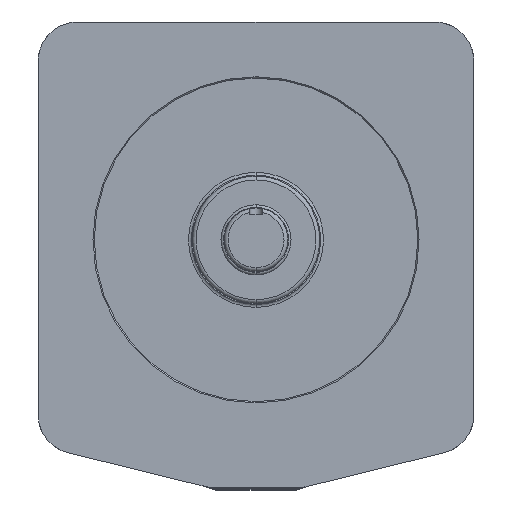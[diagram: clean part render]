
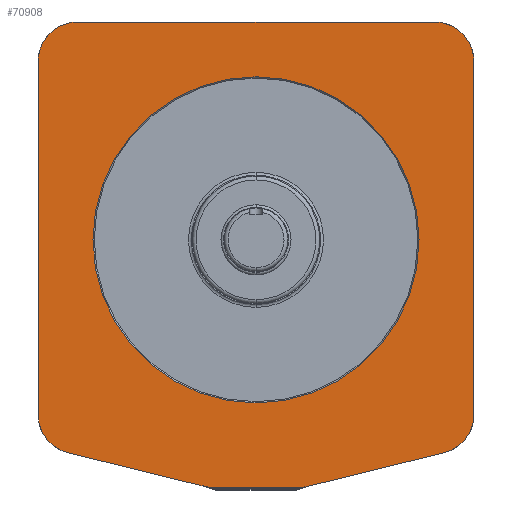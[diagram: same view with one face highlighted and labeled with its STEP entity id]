
A CAD part, top view. The second image highlights one B-rep face of the part: STEP entity #70908.
In plain terms, the highlighted planar face has unit normal (0, 0, 1).
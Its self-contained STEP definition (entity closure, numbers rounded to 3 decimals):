
#293 = DIRECTION ( 'NONE',  ( 0., 0., -1. ) ) ;
#693 = CIRCLE ( 'NONE', #68986, 31. ) ;
#1783 = DIRECTION ( 'NONE',  ( 0., -1., 0. ) ) ;
#4440 = AXIS2_PLACEMENT_3D ( 'NONE', #82474, #119737, #36024 ) ;
#4642 = AXIS2_PLACEMENT_3D ( 'NONE', #64739, #102009, #18274 ) ;
#5472 = CIRCLE ( 'NONE', #73789, 128. ) ;
#7006 = EDGE_CURVE ( 'NONE', #99916, #30553, #88166, .T. ) ;
#7911 = FACE_BOUND ( 'NONE', #106565, .T. ) ;
#8039 = ORIENTED_EDGE ( 'NONE', *, *, #56198, .F. ) ;
#8092 = CIRCLE ( 'NONE', #76444, 31. ) ;
#8765 = EDGE_CURVE ( 'NONE', #44403, #43099, #87612, .T. ) ;
#9954 = ORIENTED_EDGE ( 'NONE', *, *, #117643, .F. ) ;
#10789 = LINE ( 'NONE', #48058, #68534 ) ;
#11600 = LINE ( 'NONE', #48868, #98491 ) ;
#12026 = AXIS2_PLACEMENT_3D ( 'NONE', #83994, #293, #37542 ) ;
#13431 = VERTEX_POINT ( 'NONE', #100534 ) ;
#15928 = CARTESIAN_POINT ( 'NONE',  ( -143.149, -37.658, 387.5 ) ) ;
#17333 = CARTESIAN_POINT ( 'NONE',  ( 191., 171.013, 387.5 ) ) ;
#18274 = DIRECTION ( 'NONE',  ( 1., 0., 0. ) ) ;
#18637 = DIRECTION ( 'NONE',  ( -1., 0., 0. ) ) ;
#19082 = DIRECTION ( 'NONE',  ( -0.239, 0.971, 0. ) ) ;
#19320 = DIRECTION ( 'NONE',  ( -1., 0., 0. ) ) ;
#20018 = DIRECTION ( 'NONE',  ( 0., 1., 0. ) ) ;
#20358 = VERTEX_POINT ( 'NONE', #93032 ) ;
#20582 = AXIS2_PLACEMENT_3D ( 'NONE', #48204, #85498, #1783 ) ;
#20603 = DIRECTION ( 'NONE',  ( 0., -1., 0. ) ) ;
#22554 = EDGE_CURVE ( 'NONE', #71224, #30234, #67074, .T. ) ;
#23676 = EDGE_CURVE ( 'NONE', #30553, #52822, #11600, .T. ) ;
#24684 = CARTESIAN_POINT ( 'NONE',  ( 191., -170.987, 387.5 ) ) ;
#25612 = VECTOR ( 'NONE', #19320, 1000. ) ;
#26260 = ORIENTED_EDGE ( 'NONE', *, *, #108324, .F. ) ;
#26816 = DIRECTION ( 'NONE',  ( 0., 0., 1. ) ) ;
#27062 = CARTESIAN_POINT ( 'NONE',  ( -86.084, 140.013, 387.5 ) ) ;
#27318 = DIRECTION ( 'NONE',  ( -1., 0., 0. ) ) ;
#27595 = ORIENTED_EDGE ( 'NONE', *, *, #34627, .F. ) ;
#28462 = LINE ( 'NONE', #65768, #30632 ) ;
#29907 = ORIENTED_EDGE ( 'NONE', *, *, #30889, .F. ) ;
#30234 = VERTEX_POINT ( 'NONE', #98719 ) ;
#30303 = ORIENTED_EDGE ( 'NONE', *, *, #117234, .F. ) ;
#30553 = VERTEX_POINT ( 'NONE', #30782 ) ;
#30632 = VECTOR ( 'NONE', #103036, 1000. ) ;
#30782 = CARTESIAN_POINT ( 'NONE',  ( -143.149, 37.658, 387.5 ) ) ;
#30889 = EDGE_CURVE ( 'NONE', #88473, #105122, #10789, .T. ) ;
#32295 = CARTESIAN_POINT ( 'NONE',  ( -143.727, -32.887, 387.5 ) ) ;
#32641 = CARTESIAN_POINT ( 'NONE',  ( -143.727, -32.887, 387.5 ) ) ;
#32907 = VERTEX_POINT ( 'NONE', #15928 ) ;
#34627 = EDGE_CURVE ( 'NONE', #90443, #32907, #65546, .T. ) ;
#34921 = AXIS2_PLACEMENT_3D ( 'NONE', #65117, #102391, #18637 ) ;
#35477 = AXIS2_PLACEMENT_3D ( 'NONE', #73801, #111056, #27318 ) ;
#36024 = DIRECTION ( 'NONE',  ( 1., 0., 0. ) ) ;
#36434 = CARTESIAN_POINT ( 'NONE',  ( -86.084, 171.013, 387.5 ) ) ;
#37542 = DIRECTION ( 'NONE',  ( -0.971, -0.239, 0. ) ) ;
#43099 = VERTEX_POINT ( 'NONE', #70497 ) ;
#44123 = ORIENTED_EDGE ( 'NONE', *, *, #23676, .F. ) ;
#44403 = VERTEX_POINT ( 'NONE', #48536 ) ;
#44862 = ORIENTED_EDGE ( 'NONE', *, *, #8765, .F. ) ;
#44896 = VECTOR ( 'NONE', #69613, 1000. ) ;
#45167 = PLANE ( 'NONE',  #4440 ) ;
#48058 = CARTESIAN_POINT ( 'NONE',  ( -86.084, 171.013, 387.5 ) ) ;
#48204 = CARTESIAN_POINT ( 'NONE',  ( -86.09, -139.987, 387.5 ) ) ;
#48536 = CARTESIAN_POINT ( 'NONE',  ( -77., 0., 387.5 ) ) ;
#48868 = CARTESIAN_POINT ( 'NONE',  ( -143.149, 37.658, 387.5 ) ) ;
#52822 = VERTEX_POINT ( 'NONE', #93417 ) ;
#56004 = ORIENTED_EDGE ( 'NONE', *, *, #7006, .F. ) ;
#56198 = EDGE_CURVE ( 'NONE', #43099, #44403, #5472, .T. ) ;
#57325 = CIRCLE ( 'NONE', #4642, 31. ) ;
#63525 = EDGE_CURVE ( 'NONE', #94286, #20358, #65786, .T. ) ;
#64111 = DIRECTION ( 'NONE',  ( -1., 0., 0. ) ) ;
#64362 = DIRECTION ( 'NONE',  ( 0., 0., -1. ) ) ;
#64737 = CIRCLE ( 'NONE', #12026, 20. ) ;
#64739 = CARTESIAN_POINT ( 'NONE',  ( 191., -139.987, 387.5 ) ) ;
#65117 = CARTESIAN_POINT ( 'NONE',  ( 51., 0., 387.5 ) ) ;
#65546 = LINE ( 'NONE', #102811, #82396 ) ;
#65768 = CARTESIAN_POINT ( 'NONE',  ( -143.149, 37.658, 387.5 ) ) ;
#65786 = LINE ( 'NONE', #103049, #25612 ) ;
#66473 = CARTESIAN_POINT ( 'NONE',  ( 191., 140.013, 387.5 ) ) ;
#67074 = LINE ( 'NONE', #104336, #73969 ) ;
#68534 = VECTOR ( 'NONE', #85347, 1000. ) ;
#68986 = AXIS2_PLACEMENT_3D ( 'NONE', #27062, #64362, #101635 ) ;
#69565 = EDGE_CURVE ( 'NONE', #32907, #95324, #64737, .T. ) ;
#69613 = DIRECTION ( 'NONE',  ( 0., 1., 0. ) ) ;
#70497 = CARTESIAN_POINT ( 'NONE',  ( 179., 0., 387.5 ) ) ;
#70908 = ADVANCED_FACE ( 'NONE', ( #91620, #7911 ), #45167, .T. ) ;
#71224 = VERTEX_POINT ( 'NONE', #108603 ) ;
#72483 = ORIENTED_EDGE ( 'NONE', *, *, #88542, .F. ) ;
#73303 = CIRCLE ( 'NONE', #20582, 31. ) ;
#73789 = AXIS2_PLACEMENT_3D ( 'NONE', #110549, #26816, #64111 ) ;
#73801 = CARTESIAN_POINT ( 'NONE',  ( -123.727, 32.887, 387.5 ) ) ;
#73969 = VECTOR ( 'NONE', #20603, 1000. ) ;
#75776 = EDGE_LOOP ( 'NONE', ( #114449, #30303, #29907, #95708, #72483, #44123, #56004, #9954, #120352, #27595, #26260, #120822, #104758 ) ) ;
#76444 = AXIS2_PLACEMENT_3D ( 'NONE', #66473, #103735, #20018 ) ;
#80321 = EDGE_CURVE ( 'NONE', #13431, #88473, #693, .T. ) ;
#82396 = VECTOR ( 'NONE', #19082, 1000. ) ;
#82474 = CARTESIAN_POINT ( 'NONE',  ( 191., -139.987, 387.5 ) ) ;
#83994 = CARTESIAN_POINT ( 'NONE',  ( -123.727, -32.887, 387.5 ) ) ;
#85347 = DIRECTION ( 'NONE',  ( 1., 0., 0. ) ) ;
#85498 = DIRECTION ( 'NONE',  ( 0., 0., -1. ) ) ;
#86177 = DIRECTION ( 'NONE',  ( 0.239, 0.971, 0. ) ) ;
#87612 = CIRCLE ( 'NONE', #34921, 128. ) ;
#88166 = CIRCLE ( 'NONE', #35477, 20. ) ;
#88473 = VERTEX_POINT ( 'NONE', #36434 ) ;
#88542 = EDGE_CURVE ( 'NONE', #52822, #13431, #28462, .T. ) ;
#90443 = VERTEX_POINT ( 'NONE', #115931 ) ;
#91620 = FACE_OUTER_BOUND ( 'NONE', #75776, .T. ) ;
#93032 = CARTESIAN_POINT ( 'NONE',  ( -86.09, -170.987, 387.5 ) ) ;
#93417 = CARTESIAN_POINT ( 'NONE',  ( -143.149, 37.658, 387.5 ) ) ;
#94286 = VERTEX_POINT ( 'NONE', #24684 ) ;
#95324 = VERTEX_POINT ( 'NONE', #32641 ) ;
#95708 = ORIENTED_EDGE ( 'NONE', *, *, #80321, .F. ) ;
#98491 = VECTOR ( 'NONE', #86177, 1000. ) ;
#98719 = CARTESIAN_POINT ( 'NONE',  ( 222., -139.987, 387.5 ) ) ;
#99916 = VERTEX_POINT ( 'NONE', #116715 ) ;
#100534 = CARTESIAN_POINT ( 'NONE',  ( -116.189, 147.409, 387.5 ) ) ;
#101635 = DIRECTION ( 'NONE',  ( -0.971, 0.239, 0. ) ) ;
#102009 = DIRECTION ( 'NONE',  ( 0., 0., -1. ) ) ;
#102391 = DIRECTION ( 'NONE',  ( 0., 0., 1. ) ) ;
#102491 = EDGE_CURVE ( 'NONE', #30234, #94286, #57325, .T. ) ;
#102811 = CARTESIAN_POINT ( 'NONE',  ( -116.195, -147.382, 387.5 ) ) ;
#103036 = DIRECTION ( 'NONE',  ( 0.239, 0.971, 0. ) ) ;
#103049 = CARTESIAN_POINT ( 'NONE',  ( 191., -170.987, 387.5 ) ) ;
#103735 = DIRECTION ( 'NONE',  ( 0., 0., -1. ) ) ;
#104336 = CARTESIAN_POINT ( 'NONE',  ( 222., 140.013, 387.5 ) ) ;
#104758 = ORIENTED_EDGE ( 'NONE', *, *, #102491, .F. ) ;
#105122 = VERTEX_POINT ( 'NONE', #17333 ) ;
#106565 = EDGE_LOOP ( 'NONE', ( #8039, #44862 ) ) ;
#108324 = EDGE_CURVE ( 'NONE', #20358, #90443, #73303, .T. ) ;
#108603 = CARTESIAN_POINT ( 'NONE',  ( 222., 140.013, 387.5 ) ) ;
#110549 = CARTESIAN_POINT ( 'NONE',  ( 51., 0., 387.5 ) ) ;
#111056 = DIRECTION ( 'NONE',  ( 0., 0., -1. ) ) ;
#114449 = ORIENTED_EDGE ( 'NONE', *, *, #22554, .F. ) ;
#115931 = CARTESIAN_POINT ( 'NONE',  ( -116.195, -147.382, 387.5 ) ) ;
#116040 = LINE ( 'NONE', #32295, #44896 ) ;
#116715 = CARTESIAN_POINT ( 'NONE',  ( -143.727, 32.887, 387.5 ) ) ;
#117234 = EDGE_CURVE ( 'NONE', #105122, #71224, #8092, .T. ) ;
#117643 = EDGE_CURVE ( 'NONE', #95324, #99916, #116040, .T. ) ;
#119737 = DIRECTION ( 'NONE',  ( 0., 0., 1. ) ) ;
#120352 = ORIENTED_EDGE ( 'NONE', *, *, #69565, .F. ) ;
#120822 = ORIENTED_EDGE ( 'NONE', *, *, #63525, .F. ) ;
